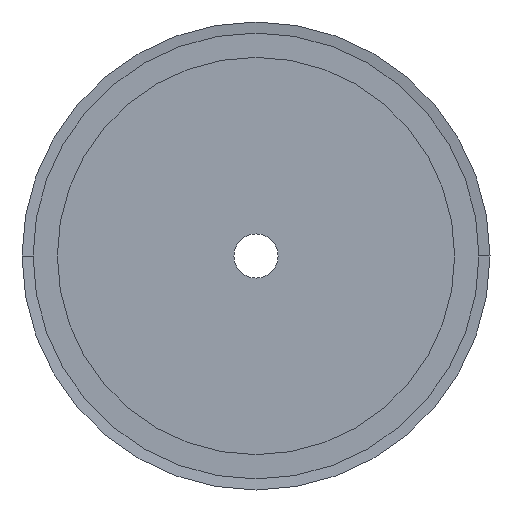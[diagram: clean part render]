
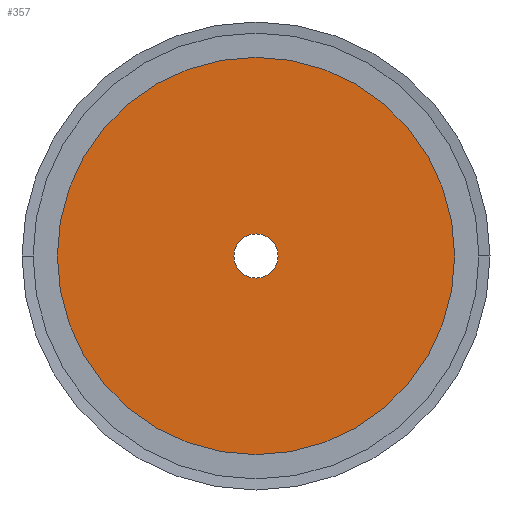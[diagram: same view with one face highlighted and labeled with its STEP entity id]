
A CAD part, left-side view. The second image highlights one B-rep face of the part: STEP entity #357.
In plain terms, the highlighted planar face has unit normal (-1, 0, 0).
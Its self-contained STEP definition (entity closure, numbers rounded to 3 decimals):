
#357 = ADVANCED_FACE( '', ( #929, #930 ), #931, .T. );
#929 = FACE_BOUND( '', #1502, .T. );
#930 = FACE_OUTER_BOUND( '', #1503, .T. );
#931 = PLANE( '', #1504 );
#1502 = EDGE_LOOP( '', ( #3987, #3988 ) );
#1503 = EDGE_LOOP( '', ( #3989, #3990 ) );
#1504 = AXIS2_PLACEMENT_3D( '', #3991, #3992, #3993 );
#3987 = ORIENTED_EDGE( '', *, *, #4808, .F. );
#3988 = ORIENTED_EDGE( '', *, *, #4009, .F. );
#3989 = ORIENTED_EDGE( '', *, *, #3997, .T. );
#3990 = ORIENTED_EDGE( '', *, *, #4813, .T. );
#3991 = CARTESIAN_POINT( '', ( 0., 25., 0. ) );
#3992 = DIRECTION( '', ( -1., 0., 0. ) );
#3993 = DIRECTION( '', ( 0., 1., 0. ) );
#3997 = EDGE_CURVE( '', #4815, #4819, #4821, .T. );
#4009 = EDGE_CURVE( '', #4843, #4839, #4845, .T. );
#4808 = EDGE_CURVE( '', #4839, #4843, #6172, .T. );
#4813 = EDGE_CURVE( '', #4819, #4815, #6177, .T. );
#4815 = VERTEX_POINT( '', #6179 );
#4819 = VERTEX_POINT( '', #6184 );
#4821 = CIRCLE( '', #6187, 45. );
#4839 = VERTEX_POINT( '', #6209 );
#4843 = VERTEX_POINT( '', #6214 );
#4845 = CIRCLE( '', #6217, 5. );
#6172 = CIRCLE( '', #8004, 5. );
#6177 = CIRCLE( '', #8009, 45. );
#6179 = CARTESIAN_POINT( '', ( 0., 45., 0. ) );
#6184 = CARTESIAN_POINT( '', ( 0., -45., 0. ) );
#6187 = AXIS2_PLACEMENT_3D( '', #8015, #8016, #8017 );
#6209 = CARTESIAN_POINT( '', ( 0., 5., 0. ) );
#6214 = CARTESIAN_POINT( '', ( 0., -5., 0. ) );
#6217 = AXIS2_PLACEMENT_3D( '', #8039, #8040, #8041 );
#8004 = AXIS2_PLACEMENT_3D( '', #9516, #9517, #9518 );
#8009 = AXIS2_PLACEMENT_3D( '', #9531, #9532, #9533 );
#8015 = CARTESIAN_POINT( '', ( 0., 0., 0. ) );
#8016 = DIRECTION( '', ( -1., 0., 0. ) );
#8017 = DIRECTION( '', ( 0., 1., 0. ) );
#8039 = CARTESIAN_POINT( '', ( 0., 0., 0. ) );
#8040 = DIRECTION( '', ( -1., 0., 0. ) );
#8041 = DIRECTION( '', ( 0., 1., 0. ) );
#9516 = CARTESIAN_POINT( '', ( 0., 0., 0. ) );
#9517 = DIRECTION( '', ( -1., 0., 0. ) );
#9518 = DIRECTION( '', ( 0., 1., 0. ) );
#9531 = CARTESIAN_POINT( '', ( 0., 0., 0. ) );
#9532 = DIRECTION( '', ( -1., 0., 0. ) );
#9533 = DIRECTION( '', ( 0., 1., 0. ) );
